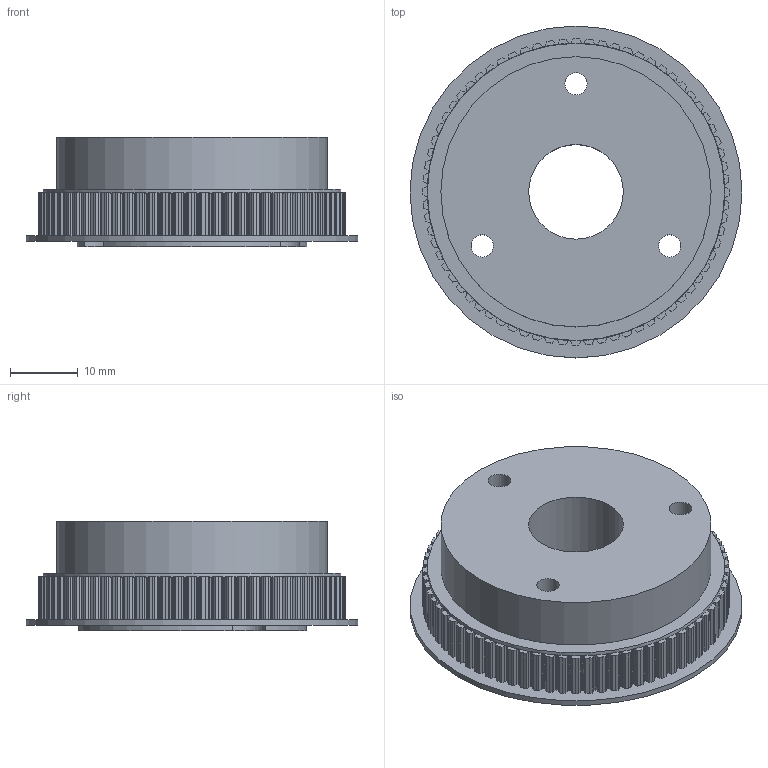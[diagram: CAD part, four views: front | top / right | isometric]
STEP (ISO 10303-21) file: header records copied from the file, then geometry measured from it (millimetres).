
FILE_DESCRIPTION(('Open CASCADE Model'),'2;1');
FILE_NAME('Open CASCADE Shape Model','2026-11-01T16:34:13',('Author'),( 'Open CASCADE'),'Open CASCADE STEP processor 8.0','build123d', 'Unknown');
FILE_SCHEMA(('AUTOMOTIVE_DESIGN { 1 0 10303 214 1 1 1 1 }'));
Products named in the file (1): SOLID
Bounding box: 49.13 x 49.13 x 16.2 mm (x, y, z)
Volume: 19684.7 mm3; surface area: 7303.9 mm2
Topology: 1 solids, 1 shells, 741 faces, 2208 edges, 1472 vertices
Faces by surface type: plane 728, cylinder 13
Full cylindrical faces by diameter (mm): 3.3 x3, 5.8 x3, 14 x1, 40 x1, 44 x1, 49.129 x1
Entity records: 51238 total; most frequent: CARTESIAN_POINT 10902, DIRECTION 6250, ORIENTED_EDGE 4416, PCURVE 4416, DEFINITIONAL_REPRESENTATION 4416, LINE 4244, VECTOR 4244, EDGE_CURVE 2208
